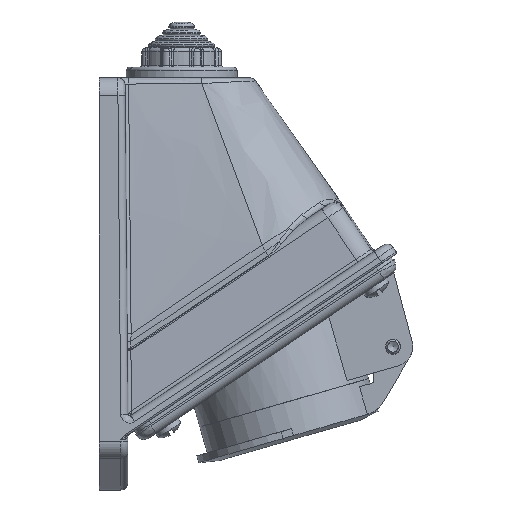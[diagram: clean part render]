
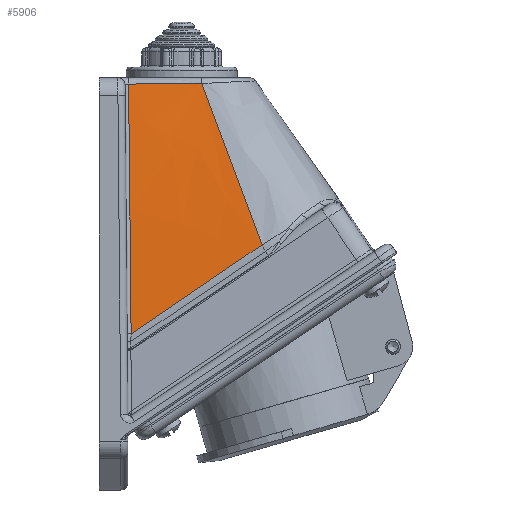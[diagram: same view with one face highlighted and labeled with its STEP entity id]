
A CAD part, front view. The second image highlights one B-rep face of the part: STEP entity #5906.
In plain terms, the highlighted free-form (B-spline) face has degree [2, 3] with [3, 4] control points.
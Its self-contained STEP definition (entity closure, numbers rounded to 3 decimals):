
#156=(
BOUNDED_CURVE()
B_SPLINE_CURVE(3,(#49726,#49727,#49728,#49729),.UNSPECIFIED.,.F.,.F.)
B_SPLINE_CURVE_WITH_KNOTS((4,4),(0.,1.),.UNSPECIFIED.)
CURVE()
GEOMETRIC_REPRESENTATION_ITEM()
RATIONAL_B_SPLINE_CURVE((1.027,1.027,1.027,
1.027))
REPRESENTATION_ITEM('')
);
#634=(
BOUNDED_SURFACE()
B_SPLINE_SURFACE(2,3,((#49741,#49742,#49743,#49744),(#49745,#49746,#49747,
#49748),(#49749,#49750,#49751,#49752)),.UNSPECIFIED.,.F.,.F.,.F.)
B_SPLINE_SURFACE_WITH_KNOTS((3,3),(4,4),(0.,1.),(0.,1.),.UNSPECIFIED.)
GEOMETRIC_REPRESENTATION_ITEM()
RATIONAL_B_SPLINE_SURFACE(((1.027,1.027,1.027,
1.027),(1.027,1.027,1.027,1.027),
(1.027,1.027,1.027,1.027)))
REPRESENTATION_ITEM('')
SURFACE()
);
#5906=ADVANCED_FACE('',(#7616),#634,.T.);
#7616=FACE_OUTER_BOUND('',#9054,.T.);
#9054=EDGE_LOOP('',(#14216,#14217,#14218,#14219,#14220));
#14216=ORIENTED_EDGE('',*,*,#22561,.T.);
#14217=ORIENTED_EDGE('',*,*,#22562,.T.);
#14218=ORIENTED_EDGE('',*,*,#22521,.T.);
#14219=ORIENTED_EDGE('',*,*,#22563,.T.);
#14220=ORIENTED_EDGE('',*,*,#22564,.T.);
#19649=VERTEX_POINT('',#49451);
#19651=VERTEX_POINT('',#49457);
#19682=VERTEX_POINT('',#49714);
#19683=VERTEX_POINT('',#49715);
#19684=VERTEX_POINT('',#49730);
#22521=EDGE_CURVE('',#19651,#19649,#25056,.T.);
#22561=EDGE_CURVE('',#19682,#19683,#25071,.T.);
#22562=EDGE_CURVE('',#19683,#19651,#25072,.T.);
#22563=EDGE_CURVE('',#19649,#19684,#156,.T.);
#22564=EDGE_CURVE('',#19684,#19682,#25073,.T.);
#25056=B_SPLINE_CURVE_WITH_KNOTS('',3,(#49453,#49454,#49455,#49456),
 .UNSPECIFIED.,.F.,.F.,(4,4),(0.,1.),.UNSPECIFIED.);
#25071=B_SPLINE_CURVE_WITH_KNOTS('',3,(#49707,#49708,#49709,#49710,#49711,
#49712,#49713),.UNSPECIFIED.,.F.,.F.,(4,3,4),(0.,0.498,1.),
 .UNSPECIFIED.);
#25072=B_SPLINE_CURVE_WITH_KNOTS('',3,(#49716,#49717,#49718,#49719,#49720,
#49721,#49722,#49723,#49724,#49725),.UNSPECIFIED.,.F.,.F.,(4,3,3,4),(0.,
0.369,0.802,1.),.UNSPECIFIED.);
#25073=B_SPLINE_CURVE_WITH_KNOTS('',3,(#49731,#49732,#49733,#49734,#49735,
#49736,#49737,#49738,#49739,#49740),.UNSPECIFIED.,.F.,.F.,(4,3,3,4),(0.,
0.125,0.563,1.),.UNSPECIFIED.);
#49451=CARTESIAN_POINT('',(28.896,-39.73,-20.026));
#49453=CARTESIAN_POINT('',(28.895,-39.732,-20.036));
#49454=CARTESIAN_POINT('',(28.896,-39.731,-20.032));
#49455=CARTESIAN_POINT('',(28.896,-39.731,-20.029));
#49456=CARTESIAN_POINT('',(28.896,-39.73,-20.026));
#49457=CARTESIAN_POINT('',(28.895,-39.732,-20.036));
#49707=CARTESIAN_POINT('',(-8.359,-29.502,24.793));
#49708=CARTESIAN_POINT('',(-8.229,-31.152,13.221));
#49709=CARTESIAN_POINT('',(-8.11,-32.853,1.656));
#49710=CARTESIAN_POINT('',(-7.995,-34.569,-9.906));
#49711=CARTESIAN_POINT('',(-7.879,-36.299,-21.571));
#49712=CARTESIAN_POINT('',(-7.767,-38.046,-33.233));
#49713=CARTESIAN_POINT('',(-7.657,-39.8,-44.893));
#49714=CARTESIAN_POINT('',(-8.359,-29.502,24.793));
#49715=CARTESIAN_POINT('',(-7.657,-39.8,-44.893));
#49716=CARTESIAN_POINT('',(-7.657,-39.8,-44.893));
#49717=CARTESIAN_POINT('',(-3.156,-39.794,-41.836));
#49718=CARTESIAN_POINT('',(1.345,-39.787,-38.778));
#49719=CARTESIAN_POINT('',(5.845,-39.779,-35.719));
#49720=CARTESIAN_POINT('',(11.114,-39.77,-32.137));
#49721=CARTESIAN_POINT('',(16.382,-39.76,-28.554));
#49722=CARTESIAN_POINT('',(21.649,-39.748,-24.97));
#49723=CARTESIAN_POINT('',(24.065,-39.743,-23.325));
#49724=CARTESIAN_POINT('',(26.48,-39.738,-21.681));
#49725=CARTESIAN_POINT('',(28.895,-39.732,-20.036));
#49726=CARTESIAN_POINT('',(29.276,-39.958,-21.038));
#49727=CARTESIAN_POINT('',(23.332,-36.39,-5.183));
#49728=CARTESIAN_POINT('',(17.389,-32.823,10.667));
#49729=CARTESIAN_POINT('',(11.45,-29.258,26.51));
#49730=CARTESIAN_POINT('',(12.037,-29.611,24.943));
#49731=CARTESIAN_POINT('',(12.037,-29.611,24.943));
#49732=CARTESIAN_POINT('',(11.184,-29.604,24.933));
#49733=CARTESIAN_POINT('',(10.331,-29.598,24.925));
#49734=CARTESIAN_POINT('',(9.478,-29.593,24.916));
#49735=CARTESIAN_POINT('',(6.505,-29.572,24.888));
#49736=CARTESIAN_POINT('',(3.533,-29.556,24.864));
#49737=CARTESIAN_POINT('',(0.56,-29.541,24.844));
#49738=CARTESIAN_POINT('',(-2.413,-29.526,24.824));
#49739=CARTESIAN_POINT('',(-5.386,-29.514,24.807));
#49740=CARTESIAN_POINT('',(-8.359,-29.502,24.793));
#49741=CARTESIAN_POINT('',(11.754,-29.441,25.698));
#49742=CARTESIAN_POINT('',(17.539,-32.913,10.268));
#49743=CARTESIAN_POINT('',(23.326,-36.387,-5.169));
#49744=CARTESIAN_POINT('',(29.116,-39.862,-20.611));
#49745=CARTESIAN_POINT('',(1.647,-29.441,25.461));
#49746=CARTESIAN_POINT('',(3.966,-32.913,5.52));
#49747=CARTESIAN_POINT('',(6.286,-36.387,-14.428));
#49748=CARTESIAN_POINT('',(8.607,-39.862,-34.384));
#49749=CARTESIAN_POINT('',(-8.46,-29.441,25.224));
#49750=CARTESIAN_POINT('',(-9.607,-32.913,0.773));
#49751=CARTESIAN_POINT('',(-10.754,-36.387,-23.688));
#49752=CARTESIAN_POINT('',(-11.901,-39.862,-48.157));
